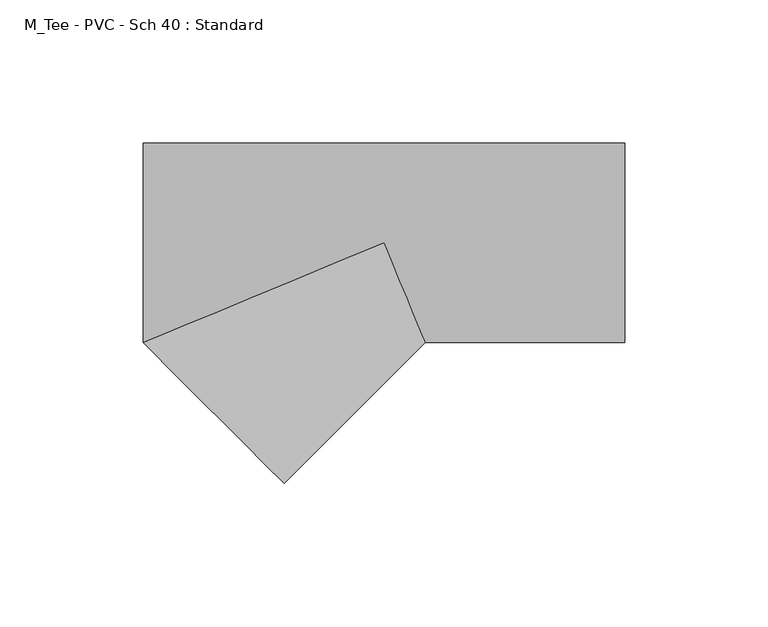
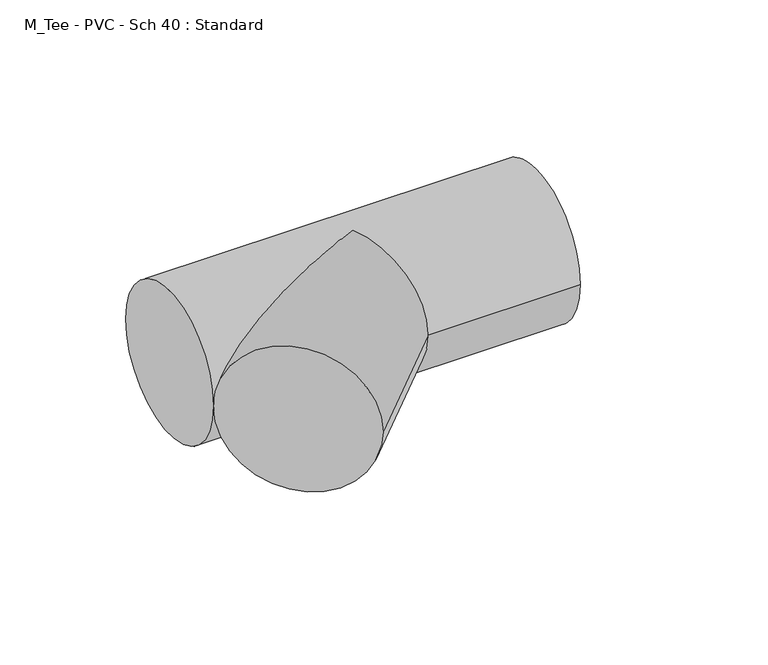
"""IFC4 building model written with IfcOpenShell, lengths in millimetres: pipe fitting geometry, M_Tee - PVC - Sch 40 : Standard."""

from ifc_helpers import new_model, si_unit, frame, origin, place, context, project, spatial, circle_curve, ellipse_curve, source, transform, mapped, element, save
from ifc_brep_helpers import plane_surface, cylinder_surface, advanced_brep


def m_tee_pvc_sch_40_standard_19f5fb6d(model_context):
    return source(origin(), model_context, "Body", "AdvancedBrep", [
        advanced_brep(
        [(-84.2609127, -34.925, 0.0), (-84.2609127, 34.925, 0.0), (84.2609127, -34.925, 0.0), (84.2609127, 34.925, 0.0), (0.0, 0.0, 34.925), (14.4759365, -34.925, 0.0), (0.0, 0.0, -34.925), (-34.8465092, -84.2934032, 0.0)],
        [
            (0, 1, circle_curve(frame((-84.2609127, 0.0, 0.0), z_axis=(-1.0, 0.0, 0.0), x_axis=(0.0, 1.0, 0.0)), 34.925)),
            (1, 0, circle_curve(frame((-84.2609127, 0.0, 0.0), z_axis=(-1.0, 0.0, 0.0), x_axis=(0.0, 1.0, 0.0)), 34.925)),
            (2, 3, circle_curve(frame((84.2609127, 0.0, 0.0), z_axis=(1.0, 0.0, 0.0), x_axis=(0.0, 1.0, 0.0)), 34.925)),
            (3, 2, circle_curve(frame((84.2609127, 0.0, 0.0), z_axis=(1.0, 0.0, 0.0), x_axis=(0.0, 1.0, 0.0)), 34.925)),
            (0, 4, ellipse_curve(frame((0.0, 0.0, 0.0), z_axis=(-0.38289853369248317, 0.9237904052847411, 0.0), x_axis=(-0.9237904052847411, -0.38289853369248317, 0.0)), 91.2121539, 34.925)),
            (4, 5, ellipse_curve(frame((0.0, 0.0, 0.0), z_axis=(0.9237904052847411, 0.3828985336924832, 0.0), x_axis=(-0.3828985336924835, 0.9237904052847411, 0.0)), 37.8061948, 34.925)),
            (5, 2),
            (3, 1),
            (5, 6, ellipse_curve(frame((0.0, 0.0, 0.0), z_axis=(0.9237904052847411, 0.3828985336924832, 0.0), x_axis=(-0.3828985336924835, 0.9237904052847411, 0.0)), 37.8061948, 34.925)),
            (6, 0, ellipse_curve(frame((0.0, 0.0, 0.0), z_axis=(-0.38289853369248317, 0.9237904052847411, 0.0), x_axis=(-0.9237904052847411, -0.38289853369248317, 0.0)), 91.2121539, 34.925)),
            (0, 7, circle_curve(frame((-59.5537109, -59.6092016, 0.0), z_axis=(-0.7067774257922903, -0.7074359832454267, 0.0), x_axis=(0.7074359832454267, -0.7067774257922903, 0.0)), 34.925)),
            (7, 0, circle_curve(frame((-59.5537109, -59.6092016, 0.0), z_axis=(-0.7067774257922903, -0.7074359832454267, 0.0), x_axis=(0.7074359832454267, -0.7067774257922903, 0.0)), 34.925)),
            (7, 5),
        ],
        [
            plane_surface(frame((-84.2609127, 0.0, 0.0), z_axis=(-1.0, 0.0, 0.0), x_axis=(0.0, 0.0, 1.0))),
            plane_surface(frame((84.2609127, 0.0, 0.0), z_axis=(1.0, 0.0, 0.0), x_axis=(0.0, 0.0, 1.0))),
            cylinder_surface(frame((-84.2609127, 0.0, 0.0), z_axis=(-1.0, 0.0, 0.0), x_axis=(0.0, 1.0, 0.0)), 34.925),
            plane_surface(frame((-59.5537109, -59.6092016, 0.0), z_axis=(-0.7067774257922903, -0.7074359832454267, 0.0), x_axis=(0.0, 0.0, 1.0))),
            cylinder_surface(frame((0.0, 0.0, 0.0), z_axis=(0.7067774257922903, 0.7074359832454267, 0.0), x_axis=(0.7074359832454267, -0.7067774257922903, 0.0)), 34.925),
        ],
        [
            (0, [[1, 2]]),
            (1, [[3, 4]]),
            (2, [[-1, 5, 6, 7, -4, 8]]),
            (2, [[-2, -8, -3, -7, 9, 10]]),
            (3, [[11, 12]]),
            (4, [[-12, 13, -6, -5]]),
            (4, [[-11, -10, -9, -13]]),
        ],
    ),
    ])


if __name__ == "__main__":
    model = new_model("IFC4")
    model_context = context("Model", 3, world=origin())
    ifc_project = project(units=[si_unit("LENGTHUNIT", "METRE", prefix="MILLI")], contexts=[model_context])
    site = spatial("IfcSite", under=ifc_project)
    building = spatial("IfcBuilding", under=site)
    placement = place(None, origin())
    m_tee_pvc_sch_40_standard_shape = m_tee_pvc_sch_40_standard_19f5fb6d(model_context)
    element("IfcPipeFitting", 1, ObjectType="M_Tee - PVC - Sch 40 : Standard", at=placement, inside=building, context=model_context, shape_type="MappedRepresentation", body=[
        mapped(m_tee_pvc_sch_40_standard_shape, transform((0.0, 0.0, 0.0), x_axis=(1.0, 0.0, 0.0), y_axis=(0.0, 1.0, 0.0), z_axis=(0.0, 0.0, 1.0))),
    ])
    save(model, "model.ifc")
